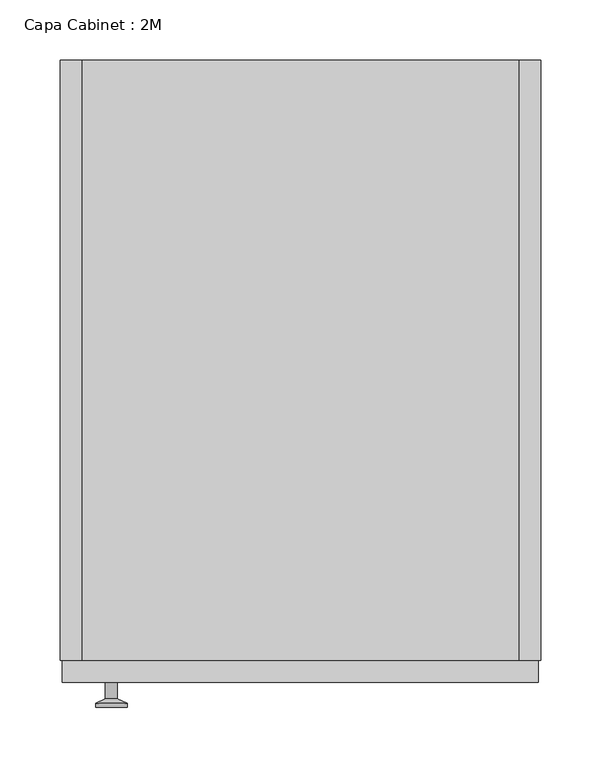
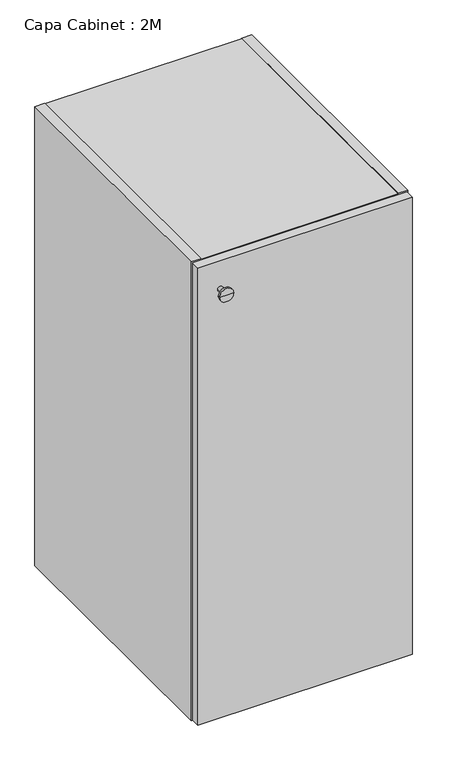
"""IFC4 building model written with IfcOpenShell, lengths in millimetres: furniture geometry, Capa Cabinet : 2M."""

from ifc_helpers import new_model, si_unit, frame, origin, place, context, project, spatial, polyline, circle_curve, outline, extrude, faceted_brep, source, transform, mapped, element, save
from ifc_brep_helpers import plane_surface, cylinder_surface, revolved_surface, advanced_brep


def capa_cabinet_2m_d7870f38(model_context):
    return source(origin(), model_context, "Body", "SolidModel", [
        extrude(outline(polyline([(182.0, 0.0), (-182.0, 0.0), (-182.0, 490.0), (182.0, 490.0), (182.0, 0.0)])), frame((0.0, 0.0, 441.0), z_axis=(0.0, 0.0, 1.0), x_axis=(1.0, 0.0, 0.0)), (0.0, 0.0, 1.0), 14.0),
        faceted_brep([(-182.0, 500.0, 896.0), (-182.0, 500.0, 895.0), (182.0, 500.0, 895.0), (182.0, 500.0, 896.0), (200.0, 500.0, 896.0), (200.0, 500.0, 0.0), (182.0, 500.0, 0.0), (182.0, 500.0, 1.0), (-182.0, 500.0, 1.0), (-182.0, 500.0, 0.0), (-200.0, 500.0, 0.0), (-200.0, 500.0, 896.0), (182.0, 490.0, 19.0), (182.0, 490.0, 877.0), (-182.0, 490.0, 877.0), (-182.0, 490.0, 19.0), (-182.0, 0.0, 896.0), (-200.0, 0.0, 896.0), (-200.0, 0.0, 0.0), (-182.0, 0.0, 0.0), (-182.0, 0.0, 1.0), (182.0, 0.0, 1.0), (182.0, 0.0, 0.0), (200.0, 0.0, 0.0), (200.0, 0.0, 896.0), (182.0, 0.0, 896.0), (182.0, 0.0, 895.0), (-182.0, 0.0, 895.0), (182.0, 0.0, 877.0), (182.0, 0.0, 19.0), (-182.0, 0.0, 19.0), (-182.0, 0.0, 877.0)], [[[0, 1, 2, 3, 4, 5, 6, 7, 8, 9, 10, 11]], [[12, 13, 14, 15]], [[16, 17, 18, 19, 20, 21, 22, 23, 24, 25, 26, 27], [28, 29, 30, 31]], [[17, 16, 0, 11]], [[18, 17, 11, 10]], [[23, 22, 6, 5]], [[24, 23, 5, 4]], [[19, 18, 10, 9]], [[20, 19, 9, 8]], [[21, 20, 8, 7]], [[22, 21, 7, 6]], [[25, 24, 4, 3]], [[26, 25, 3, 2]], [[27, 26, 2, 1]], [[16, 27, 1, 0]], [[29, 28, 13, 12]], [[30, 29, 12, 15]], [[31, 30, 15, 14]], [[28, 31, 14, 13]]]),
        extrude(outline(polyline([(198.0, -18.0), (-198.0, -18.0), (-198.0, 0.0), (198.0, 0.0), (198.0, -18.0)])), frame((0.0, 0.0, 2.0), z_axis=(0.0, 0.0, 1.0), x_axis=(1.0, 0.0, 0.0)), (0.0, 0.0, 1.0), 892.0),
        advanced_brep(
        [(-157.2922597, -18.0, 840.0), (-152.2922597, -18.0, 840.0), (-162.2922597, -18.0, 840.0), (-170.2922597, -38.997134, 840.0), (-144.2922597, -38.997134, 840.0), (-157.2922597, -38.997134, 840.0), (-170.2922597, -35.5419417, 840.0), (-144.2922597, -35.5419417, 840.0), (-162.2922597, -31.8114804, 840.0), (-152.2922597, -31.8114804, 840.0)],
        [
            (0, 1),
            (1, 2, circle_curve(frame((-157.2922597, -18.0, 840.0), z_axis=(0.0, 1.0, 0.0), x_axis=(1.0, 0.0, 0.0)), 5.0)),
            (2, 0),
            (2, 1, circle_curve(frame((-157.2922597, -18.0, 840.0), z_axis=(0.0, 1.0, 0.0), x_axis=(1.0, 0.0, 0.0)), 5.0)),
            (3, 4, circle_curve(frame((-157.2922597, -38.997134, 840.0), z_axis=(0.0, -1.0, 0.0), x_axis=(1.0, 0.0, 0.0)), 13.0)),
            (4, 5),
            (5, 3),
            (4, 3, circle_curve(frame((-157.2922597, -38.997134, 840.0), z_axis=(0.0, -1.0, 0.0), x_axis=(1.0, 0.0, 0.0)), 13.0)),
            (6, 7, circle_curve(frame((-157.2922597, -35.5419417, 840.0), z_axis=(0.0, -1.0, 0.0), x_axis=(1.0, 0.0, 0.0)), 13.0)),
            (7, 4),
            (3, 6),
            (7, 6, circle_curve(frame((-157.2922597, -35.5419417, 840.0), z_axis=(0.0, -1.0, 0.0), x_axis=(1.0, 0.0, 0.0)), 13.0)),
            (8, 9, circle_curve(frame((-157.2922597, -31.8114804, 840.0), z_axis=(0.0, -1.0, 0.0), x_axis=(1.0, 0.0, 0.0)), 5.0)),
            (9, 7),
            (6, 8),
            (9, 8, circle_curve(frame((-157.2922597, -31.8114804, 840.0), z_axis=(0.0, -1.0, 0.0), x_axis=(1.0, 0.0, 0.0)), 5.0)),
            (1, 9),
            (8, 2),
        ],
        [
            plane_surface(frame((-157.2922597, -18.0, 840.0), z_axis=(0.0, 1.0, 0.0), x_axis=(1.0, 0.0, 0.0))),
            plane_surface(frame((-157.2922597, -38.997134, 840.0), z_axis=(0.0, -1.0, 0.0), x_axis=(1.0, 0.0, 0.0))),
            cylinder_surface(frame((-157.2922597, -38.997134, 840.0), z_axis=(0.0, 1.0, 0.0), x_axis=(1.0, 0.0, 0.0)), 13.0),
            revolved_surface(polyline([(-144.2922597, -35.5419417, 840.0), (-152.2922597, -31.8114804, 840.0)]), (-157.2922597, -38.997134, 840.0), (0.0, 1.0, 0.0)),
            cylinder_surface(frame((-157.2922597, -38.997134, 840.0), z_axis=(0.0, 1.0, 0.0), x_axis=(1.0, 0.0, 0.0)), 5.0),
        ],
        [
            (0, [[1, 2, 3]]),
            (0, [[-3, 4, -1]]),
            (1, [[5, 6, 7]]),
            (1, [[8, -7, -6]]),
            (2, [[9, 10, -5, 11]]),
            (2, [[12, -11, -8, -10]]),
            (3, [[13, 14, -9, 15]]),
            (3, [[16, -15, -12, -14]]),
            (4, [[-2, 17, -13, 18]]),
            (4, [[-4, -18, -16, -17]]),
        ],
    ),
    ])


if __name__ == "__main__":
    model = new_model("IFC4")
    model_context = context("Model", 3, world=origin())
    ifc_project = project(units=[si_unit("LENGTHUNIT", "METRE", prefix="MILLI")], contexts=[model_context])
    site = spatial("IfcSite", under=ifc_project)
    building = spatial("IfcBuilding", under=site)
    placement = place(None, origin())
    capa_cabinet_2m_shape = capa_cabinet_2m_d7870f38(model_context)
    element("IfcFurniture", 1, ObjectType="Capa Cabinet : 2M", at=placement, inside=building, context=model_context, shape_type="MappedRepresentation", body=[
        mapped(capa_cabinet_2m_shape, transform((0.0, 0.0, 0.0), x_axis=(1.0, 0.0, 0.0), y_axis=(0.0, 1.0, 0.0), z_axis=(0.0, 0.0, 1.0))),
    ])
    save(model, "model.ifc")
